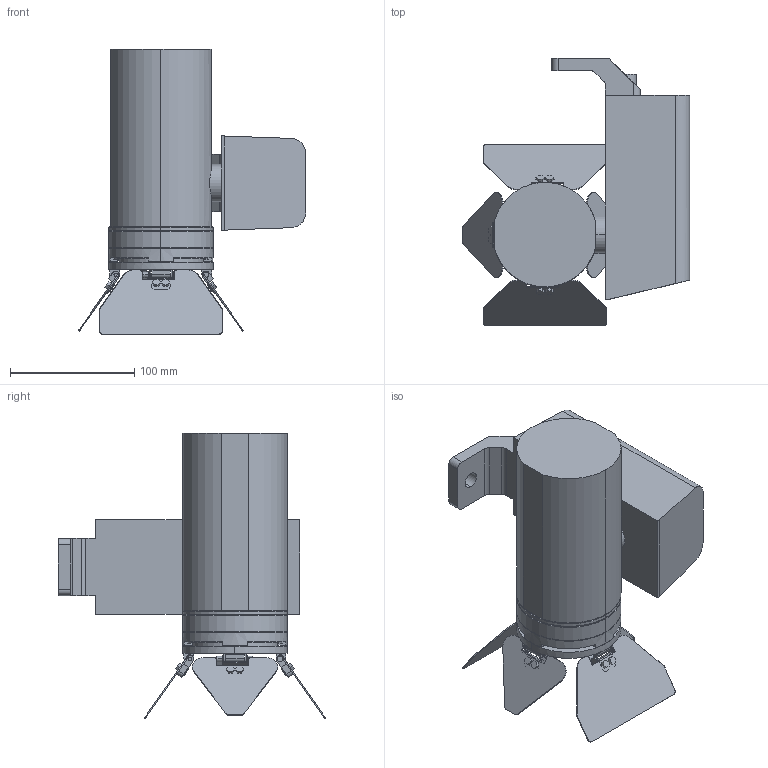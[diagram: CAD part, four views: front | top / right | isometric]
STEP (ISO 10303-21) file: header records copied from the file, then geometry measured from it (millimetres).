
FILE_DESCRIPTION (( 'STEP AP203' ), '1' );
FILE_NAME ('P1X (Clamp_Sidecar_W)_Hanging_10-06-2026.STEP', '2026-06-10T19:10:47', ( '' ), ( '' ), 'SwSTEP 2.0', 'SolidWorks 2014', '' );
FILE_SCHEMA (( 'CONFIG_CONTROL_DESIGN' ));
Length unit declared in the file: millimetre
Products named in the file (4): P1X (Clamp_Sidecar_W)_Hanging_10-06-2026; 2.5 inch 4-leaf Barndoor_W; P1X - Light Body_W; Sidecar_Yoke+PSU_(Clamp_W)
Assembly tree (3 placements, depth 2):
  P1X (Clamp_Sidecar_W)_Hanging_10-06-2026
    Sidecar_Yoke+PSU_(Clamp_W)
    P1X - Light Body_W
    2.5 inch 4-leaf Barndoor_W
Bounding box: 182.76 x 214.91 x 229.38 mm (x, y, z)
Volume: 1735228.1 mm3; surface area: 168074.1 mm2
Topology: 3 solids, 11 shells, 491 faces, 1244 edges, 801 vertices
Faces by surface type: plane 309, cylinder 156, cone 26
Entity records: 15168 total; most frequent: CARTESIAN_POINT 2611, DIRECTION 2593, ORIENTED_EDGE 2488, EDGE_CURVE 1244, AXIS2_PLACEMENT_3D 865, LINE 863, VECTOR 863, VERTEX_POINT 801
